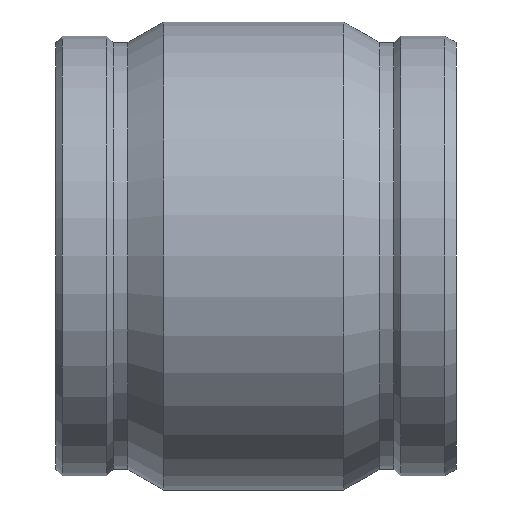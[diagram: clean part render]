
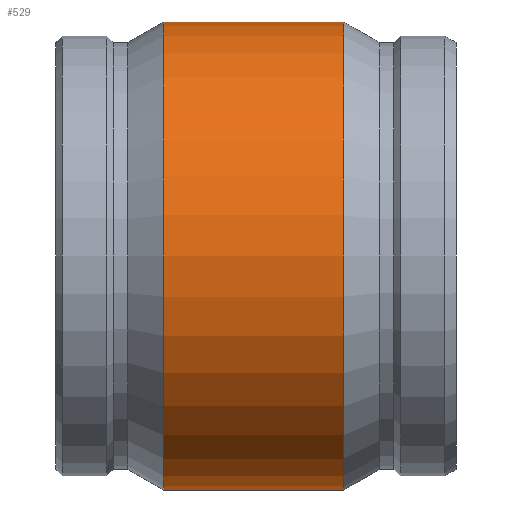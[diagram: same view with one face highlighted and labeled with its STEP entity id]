
A CAD part, front view. The second image highlights one B-rep face of the part: STEP entity #529.
In plain terms, the highlighted cylindrical face has radius 139.7 mm (diameter 279.4 mm), a full revolution.
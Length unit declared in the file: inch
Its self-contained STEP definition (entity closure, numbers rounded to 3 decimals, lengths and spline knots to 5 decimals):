
#50=LINE('',#992,#72);
#72=VECTOR('',#748,5.5);
#89=CYLINDRICAL_SURFACE('',#605,5.5);
#113=FACE_OUTER_BOUND('',#151,.T.);
#151=EDGE_LOOP('',(#421,#422,#423,#424,#425,#426));
#191=CIRCLE('',#603,5.5);
#192=CIRCLE('',#604,5.5);
#193=CIRCLE('',#606,5.5);
#194=CIRCLE('',#607,5.5);
#245=VERTEX_POINT('',#982);
#246=VERTEX_POINT('',#983);
#247=VERTEX_POINT('',#988);
#248=VERTEX_POINT('',#989);
#309=EDGE_CURVE('',#245,#246,#191,.T.);
#310=EDGE_CURVE('',#246,#245,#192,.T.);
#312=EDGE_CURVE('',#247,#248,#193,.T.);
#313=EDGE_CURVE('',#248,#247,#194,.T.);
#314=EDGE_CURVE('',#248,#246,#50,.T.);
#421=ORIENTED_EDGE('',*,*,#312,.F.);
#422=ORIENTED_EDGE('',*,*,#313,.F.);
#423=ORIENTED_EDGE('',*,*,#314,.T.);
#424=ORIENTED_EDGE('',*,*,#310,.T.);
#425=ORIENTED_EDGE('',*,*,#309,.T.);
#426=ORIENTED_EDGE('',*,*,#314,.F.);
#529=ADVANCED_FACE('',(#113),#89,.T.);
#603=AXIS2_PLACEMENT_3D('',#984,#737,#738);
#604=AXIS2_PLACEMENT_3D('',#985,#739,#740);
#605=AXIS2_PLACEMENT_3D('',#987,#742,#743);
#606=AXIS2_PLACEMENT_3D('',#990,#744,#745);
#607=AXIS2_PLACEMENT_3D('',#991,#746,#747);
#737=DIRECTION('center_axis',(1.,0.,0.));
#738=DIRECTION('ref_axis',(0.,0.,-1.));
#739=DIRECTION('center_axis',(1.,0.,0.));
#740=DIRECTION('ref_axis',(0.,0.,-1.));
#742=DIRECTION('center_axis',(1.,0.,0.));
#743=DIRECTION('ref_axis',(0.,1.,0.));
#744=DIRECTION('center_axis',(1.,0.,0.));
#745=DIRECTION('ref_axis',(0.,0.,-1.));
#746=DIRECTION('center_axis',(1.,0.,0.));
#747=DIRECTION('ref_axis',(0.,0.,-1.));
#748=DIRECTION('',(-1.,0.,0.));
#982=CARTESIAN_POINT('',(-2.17225,5.5,0.));
#983=CARTESIAN_POINT('',(-2.17225,-5.5,0.));
#984=CARTESIAN_POINT('Origin',(-2.17225,0.,0.));
#985=CARTESIAN_POINT('Origin',(-2.17225,0.,0.));
#987=CARTESIAN_POINT('Origin',(-0.055,0.,0.));
#988=CARTESIAN_POINT('',(2.06225,5.5,0.));
#989=CARTESIAN_POINT('',(2.06225,-5.5,0.));
#990=CARTESIAN_POINT('Origin',(2.06225,0.,0.));
#991=CARTESIAN_POINT('Origin',(2.06225,0.,0.));
#992=CARTESIAN_POINT('',(-0.055,-5.5,0.));
